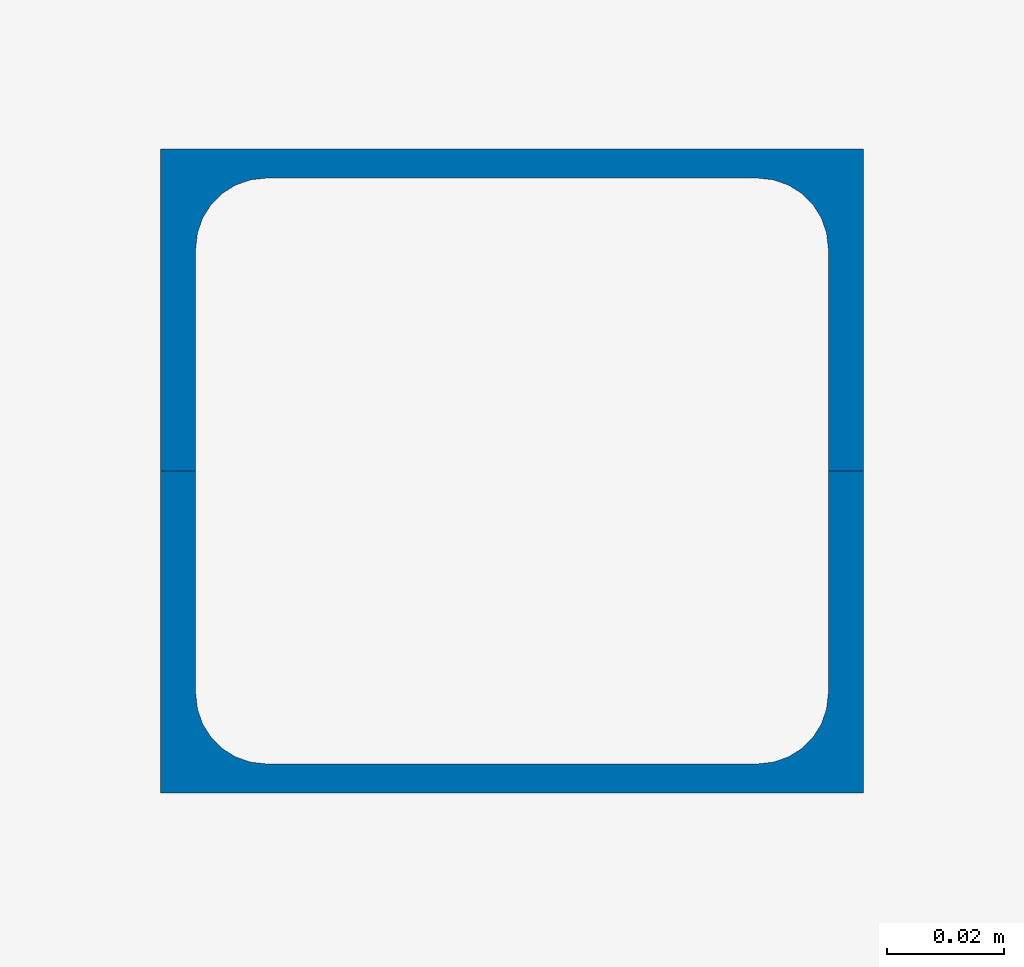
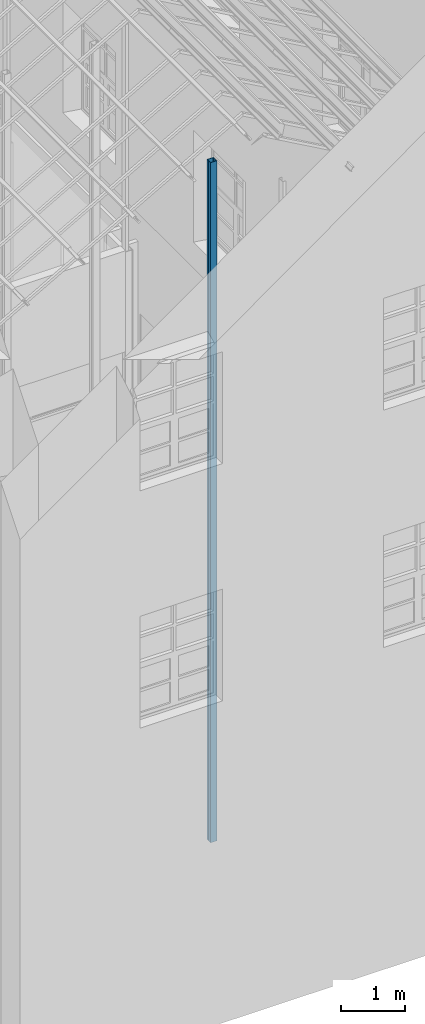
# One storey, part 9 of 75: 2 columns.
"""IFC2X3 building model written with IfcOpenShell, lengths in metres."""

from ifc_helpers import new_model, entity, si_unit, converted_unit, derived_unit, direction, frame, frame_2d, origin, place, context, subcontext, project, spatial, polyline, circle_curve, parameter, trimmed, segment, composite_curve, outline, extrude, source, transform, mapped, material, type_object, type_shapes, element, save


model = new_model("IFC2X3")

# Units and contexts
model_context = context("Model", 3, precision=1e-05, world=origin(), true_north=direction((6.12303176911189e-17, 1.0)))
body_context = subcontext(model_context, "Body", "Model", "MODEL_VIEW")
ifc_project = project(units=[si_unit("LENGTHUNIT", "METRE"), si_unit("AREAUNIT", "SQUARE_METRE"), si_unit("VOLUMEUNIT", "CUBIC_METRE"), converted_unit("PLANEANGLEUNIT", "DEGREE", entity("IfcRatioMeasure", 0.0174532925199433), si_unit("PLANEANGLEUNIT", "RADIAN"), dimensions=[0, 0, 0, 0, 0, 0, 0]), si_unit("MASSUNIT", "GRAM", prefix="KILO"), derived_unit("MASSDENSITYUNIT", [(si_unit("MASSUNIT", "GRAM", prefix="KILO"), 1), (si_unit("LENGTHUNIT", "METRE"), -3)]), derived_unit("MOMENTOFINERTIAUNIT", [(si_unit("LENGTHUNIT", "METRE"), 4)]), si_unit("TIMEUNIT", "SECOND"), si_unit("FREQUENCYUNIT", "HERTZ"), si_unit("THERMODYNAMICTEMPERATUREUNIT", "DEGREE_CELSIUS"), derived_unit("THERMALTRANSMITTANCEUNIT", [(si_unit("MASSUNIT", "GRAM", prefix="KILO"), 1), (si_unit("THERMODYNAMICTEMPERATUREUNIT", "KELVIN"), -1), (si_unit("TIMEUNIT", "SECOND"), -3)]), derived_unit("VOLUMETRICFLOWRATEUNIT", [(si_unit("LENGTHUNIT", "METRE"), 3), (si_unit("TIMEUNIT", "SECOND"), -1)]), si_unit("ELECTRICCURRENTUNIT", "AMPERE"), si_unit("ELECTRICVOLTAGEUNIT", "VOLT"), si_unit("POWERUNIT", "WATT"), si_unit("FORCEUNIT", "NEWTON", prefix="KILO"), si_unit("ILLUMINANCEUNIT", "LUX"), si_unit("LUMINOUSFLUXUNIT", "LUMEN"), si_unit("LUMINOUSINTENSITYUNIT", "CANDELA"), derived_unit("USERDEFINED", [(si_unit("MASSUNIT", "GRAM", prefix="KILO"), -1), (si_unit("LENGTHUNIT", "METRE"), -2), (si_unit("TIMEUNIT", "SECOND"), 3), (si_unit("LUMINOUSFLUXUNIT", "LUMEN"), 1)]), derived_unit("LINEARVELOCITYUNIT", [(si_unit("LENGTHUNIT", "METRE"), 1), (si_unit("TIMEUNIT", "SECOND"), -1)]), si_unit("PRESSUREUNIT", "PASCAL"), derived_unit("USERDEFINED", [(si_unit("LENGTHUNIT", "METRE"), -2), (si_unit("MASSUNIT", "GRAM", prefix="KILO"), 1), (si_unit("TIMEUNIT", "SECOND"), -2)]), derived_unit("LINEARFORCEUNIT", [(si_unit("MASSUNIT", "GRAM", prefix="KILO"), 1), (si_unit("LENGTHUNIT", "METRE"), 1), (si_unit("TIMEUNIT", "SECOND"), -2), (si_unit("LENGTHUNIT", "METRE"), -1)]), derived_unit("PLANARFORCEUNIT", [(si_unit("MASSUNIT", "GRAM", prefix="KILO"), 1), (si_unit("LENGTHUNIT", "METRE"), 1), (si_unit("TIMEUNIT", "SECOND"), -2), (si_unit("LENGTHUNIT", "METRE"), -2)])], contexts=[model_context])

# Site, building, storey
site_placement = place(None, origin())
site = spatial("IfcSite", under=ifc_project, at=site_placement, Name="Superficie", CompositionType="ELEMENT")
building_placement = place(site_placement, origin())
building = spatial("IfcBuilding", under=site, at=building_placement, Name="Telegestiones", CompositionType="ELEMENT")
storey_placement = place(building_placement, origin())
storey = spatial("IfcBuildingStorey", under=building, at=storey_placement, Name="Nivel 0_NPT", CompositionType="ELEMENT", Elevation=0.0)

# Columns
ifc_material = material(Name="Metal - Acero - 345 MPa")
column_type_1 = type_object("IfcColumnType", Name="UPE - Canales de ala paralela - Pilar:UPE 120", PredefinedType="COLUMN", material=ifc_material)
shared_shape_1 = source(origin(), body_context, "Body", "SweptSolid", [
    extrude(outline(composite_curve([segment(polyline([(-0.0599999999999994, -0.0264), (0.0600000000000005, -0.0264)]), True, "CONTINUOUS"), segment(polyline([(0.0600000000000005, -0.0264), (0.0600000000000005, 0.0286)]), True, "CONTINUOUS"), segment(polyline([(0.0600000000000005, 0.0286), (0.0539999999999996, 0.0286)]), True, "CONTINUOUS"), segment(polyline([(0.0539999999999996, 0.0286), (0.0539999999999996, -0.00939999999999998)]), True, "CONTINUOUS"), segment(trimmed(circle_curve(frame_2d((0.0419999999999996, -0.0094), x_axis=(1.0, 0.0)), 0.012), [parameter(270.0)], [parameter(0.0)], True, "PARAMETER"), False, "CONTINUOUS"), segment(polyline([(0.0419999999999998, -0.0214), (-0.0420000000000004, -0.0214)]), True, "CONTINUOUS"), segment(trimmed(circle_curve(frame_2d((-0.0420000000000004, -0.00940000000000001), x_axis=(0.0, -1.0)), 0.012), [parameter(270.0)], [parameter(0.0)], True, "PARAMETER"), False, "CONTINUOUS"), segment(polyline([(-0.0540000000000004, -0.0094), (-0.0540000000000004, 0.0286)]), True, "CONTINUOUS"), segment(polyline([(-0.0540000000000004, 0.0286), (-0.0599999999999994, 0.0286)]), True, "CONTINUOUS"), segment(polyline([(-0.0599999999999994, 0.0286), (-0.0599999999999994, -0.0264)]), True, "CONTINUOUS")], self_intersect=False)), frame((0.00660000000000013, 0.0, 0.0), z_axis=(0.0, 0.0, 1.0), x_axis=(0.0, -1.0, 0.0)), (0.0, 0.0, 1.0), 13.07),
])
type_shapes(column_type_1, [shared_shape_1])
column_1_placement = place(storey_placement, frame((11.2618126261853, -2.25759277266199, 0.0), z_axis=(0.0, 0.0, 1.0), x_axis=(0.0, 1.0, 0.0)))
element("IfcColumn", 1, at=column_1_placement, inside=storey, type_object=column_type_1, Name="UPE - Canales de ala paralela - Pilar:UPE 120", ObjectType="UPE - Canales de ala paralela - Pilar:UPE 120", context=body_context, shape_type="MappedRepresentation", body=[
    mapped(shared_shape_1, transform((0.0, 0.0, 0.0), scale=1.0)),
])
column_type_2 = type_object("IfcColumnType", Name="UPE - Canales de ala paralela - Pilar:UPE 120", PredefinedType="COLUMN", material=ifc_material)
shared_shape_2 = source(origin(), body_context, "Body", "SweptSolid", [
    extrude(outline(composite_curve([segment(polyline([(-0.0600000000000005, -0.0264), (0.0599999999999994, -0.0264)]), True, "CONTINUOUS"), segment(polyline([(0.0599999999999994, -0.0264), (0.0599999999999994, 0.0286)]), True, "CONTINUOUS"), segment(polyline([(0.0599999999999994, 0.0286), (0.0540000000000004, 0.0286)]), True, "CONTINUOUS"), segment(polyline([(0.0540000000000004, 0.0286), (0.0540000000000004, -0.00939999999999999)]), True, "CONTINUOUS"), segment(trimmed(circle_curve(frame_2d((0.0420000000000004, -0.00939999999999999), x_axis=(1.0, 0.0)), 0.012), [parameter(270.0)], [parameter(0.0)], True, "PARAMETER"), False, "CONTINUOUS"), segment(polyline([(0.0420000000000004, -0.0214), (-0.0419999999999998, -0.0214)]), True, "CONTINUOUS"), segment(trimmed(circle_curve(frame_2d((-0.0419999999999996, -0.00939999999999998), x_axis=(0.0, -1.0)), 0.012), [parameter(270.0)], [parameter(0.0)], True, "PARAMETER"), False, "CONTINUOUS"), segment(polyline([(-0.0539999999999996, -0.00939999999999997), (-0.0539999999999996, 0.0286)]), True, "CONTINUOUS"), segment(polyline([(-0.0539999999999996, 0.0286), (-0.0600000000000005, 0.0286)]), True, "CONTINUOUS"), segment(polyline([(-0.0600000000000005, 0.0286), (-0.0600000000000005, -0.0264)]), True, "CONTINUOUS")], self_intersect=False)), frame((0.00660000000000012, 0.0, 0.0), z_axis=(0.0, 0.0, 1.0), x_axis=(0.0, -1.0, 0.0)), (0.0, 0.0, 1.0), 13.07),
])
type_shapes(column_type_2, [shared_shape_2])
column_2_placement = place(storey_placement, frame((11.2618126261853, -2.18719277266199, 0.0), z_axis=(0.0, 0.0, 1.0), x_axis=(0.0, -1.0, 0.0)))
element("IfcColumn", 2, at=column_2_placement, inside=storey, type_object=column_type_2, Name="UPE - Canales de ala paralela - Pilar:UPE 120", ObjectType="UPE - Canales de ala paralela - Pilar:UPE 120", context=body_context, shape_type="MappedRepresentation", body=[
    mapped(shared_shape_2, transform((0.0, 0.0, 0.0), scale=1.0)),
])

save(model, "model.ifc")
